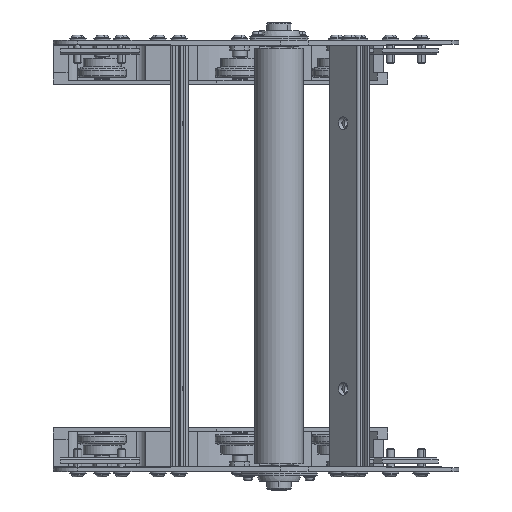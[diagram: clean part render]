
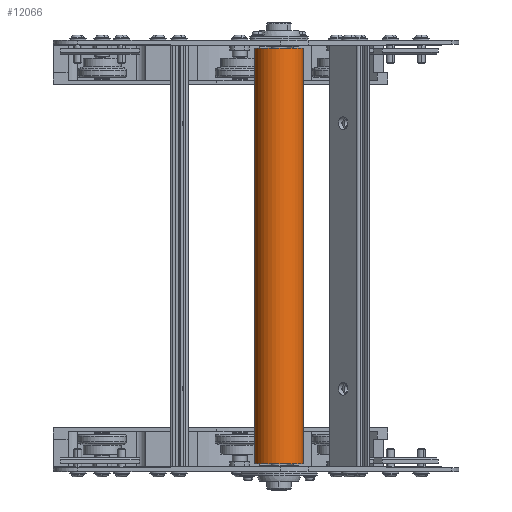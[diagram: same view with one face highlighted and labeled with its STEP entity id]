
A CAD part, front view. The second image highlights one B-rep face of the part: STEP entity #12066.
In plain terms, the highlighted cylindrical face has radius 25 mm (diameter 50 mm), a partial arc.
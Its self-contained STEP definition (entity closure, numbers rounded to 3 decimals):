
#39 = DIRECTION ( 'NONE',  ( -1., 0., 0. ) ) ;
#878 = AXIS2_PLACEMENT_3D ( 'NONE', #17218, #6680, #8451 ) ;
#892 = CYLINDRICAL_SURFACE ( 'NONE', #878, 25. ) ;
#1433 = FACE_OUTER_BOUND ( 'NONE', #22367, .T. ) ;
#1657 = VECTOR ( 'NONE', #10185, 1000. ) ;
#1820 = EDGE_CURVE ( 'NONE', #11068, #16620, #6717, .T. ) ;
#2096 = VECTOR ( 'NONE', #22567, 1000. ) ;
#2447 = VERTEX_POINT ( 'NONE', #8757 ) ;
#3174 = CARTESIAN_POINT ( 'NONE',  ( 25., 0., -213.5 ) ) ;
#4121 = DIRECTION ( 'NONE',  ( 0., 0., -1. ) ) ;
#5580 = CIRCLE ( 'NONE', #12540, 25. ) ;
#5865 = CARTESIAN_POINT ( 'NONE',  ( 25., 0., 213.5 ) ) ;
#6329 = CIRCLE ( 'NONE', #8529, 25. ) ;
#6680 = DIRECTION ( 'NONE',  ( 0., 0., 1. ) ) ;
#6688 = CARTESIAN_POINT ( 'NONE',  ( -25., 0., 213.5 ) ) ;
#6717 = LINE ( 'NONE', #19043, #2096 ) ;
#7106 = EDGE_CURVE ( 'NONE', #2447, #8070, #21506, .T. ) ;
#8026 = ORIENTED_EDGE ( 'NONE', *, *, #7106, .T. ) ;
#8070 = VERTEX_POINT ( 'NONE', #5865 ) ;
#8451 = DIRECTION ( 'NONE',  ( 1., 0., 0. ) ) ;
#8529 = AXIS2_PLACEMENT_3D ( 'NONE', #21141, #10531, #39 ) ;
#8757 = CARTESIAN_POINT ( 'NONE',  ( 25., 0., -213.5 ) ) ;
#9755 = ORIENTED_EDGE ( 'NONE', *, *, #1820, .F. ) ;
#9852 = ORIENTED_EDGE ( 'NONE', *, *, #17096, .T. ) ;
#10185 = DIRECTION ( 'NONE',  ( 0., 0., 1. ) ) ;
#10531 = DIRECTION ( 'NONE',  ( 0., 0., -1. ) ) ;
#11068 = VERTEX_POINT ( 'NONE', #11305 ) ;
#11305 = CARTESIAN_POINT ( 'NONE',  ( -25., 0., -213.5 ) ) ;
#12066 = ADVANCED_FACE ( 'NONE', ( #1433 ), #892, .T. ) ;
#12379 = DIRECTION ( 'NONE',  ( -1., 0., 0. ) ) ;
#12540 = AXIS2_PLACEMENT_3D ( 'NONE', #16532, #4121, #12379 ) ;
#16532 = CARTESIAN_POINT ( 'NONE',  ( 0., 0., 213.5 ) ) ;
#16620 = VERTEX_POINT ( 'NONE', #6688 ) ;
#17096 = EDGE_CURVE ( 'NONE', #8070, #16620, #5580, .T. ) ;
#17218 = CARTESIAN_POINT ( 'NONE',  ( 0., 0., -213.5 ) ) ;
#18422 = EDGE_CURVE ( 'NONE', #2447, #11068, #6329, .T. ) ;
#19043 = CARTESIAN_POINT ( 'NONE',  ( -25., 0., -213.5 ) ) ;
#19708 = ORIENTED_EDGE ( 'NONE', *, *, #18422, .F. ) ;
#21141 = CARTESIAN_POINT ( 'NONE',  ( 0., 0., -213.5 ) ) ;
#21506 = LINE ( 'NONE', #3174, #1657 ) ;
#22367 = EDGE_LOOP ( 'NONE', ( #9755, #19708, #8026, #9852 ) ) ;
#22567 = DIRECTION ( 'NONE',  ( 0., 0., 1. ) ) ;
